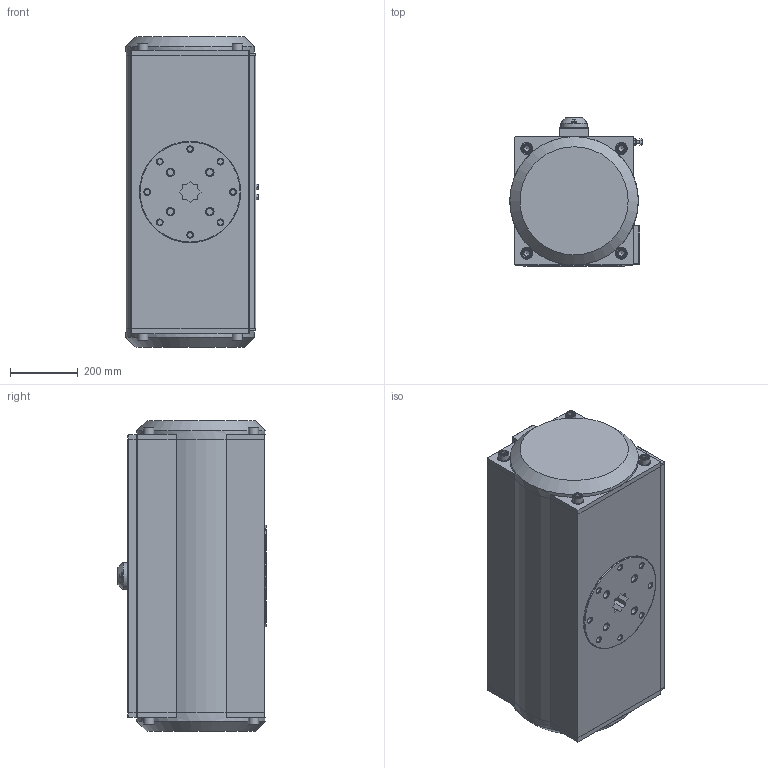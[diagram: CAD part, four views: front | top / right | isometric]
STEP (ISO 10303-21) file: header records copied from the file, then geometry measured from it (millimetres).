
FILE_DESCRIPTION(('STEP AP242'), '1');
FILE_NAME('PA-DA-350 砅槻斁瀔魤鍱 DN.ru', '2026-04-18T00:29:29', ('DN.ru'), (''), 'C3D Converter', 'C3D Toolkit', '');
FILE_SCHEMA(('AP242_MANAGED_MODEL_BASED_3D_ENGINEERING_MIM_LF { 1 0 10303 442 1 1 4 }'));
Length unit declared in the file: millimetre
Products named in the file (1): PA-DA-350
Bounding box: 391.4 x 440 x 920 mm (x, y, z)
Volume: 125942990.2 mm3; surface area: 2118041.8 mm2
Topology: 1 solids, 4 shells, 1030 faces, 2668 edges, 1735 vertices
Faces by surface type: plane 460, extrusion 347, cylinder 116, cone 95, torus 12
Full cylindrical faces by diameter (mm): 5 x4, 6 x4, 8 x1, 9.989 x2, 10 x4, 16 x8, 17 x8, 20 x20, 30 x8, 35 x8, 80 x1, 224 x2, 300 x1, 380 x2
Entity records: 60447 total; most frequent: CARTESIAN_POINT 29399, ORIENTED_EDGE 5016, DIRECTION 3494, EDGE_CURVE 2508, VERTEX_POINT 1719, B_SPLINE_CURVE_WITH_KNOTS 1421, VECTOR 1420, EDGE_LOOP 1283
